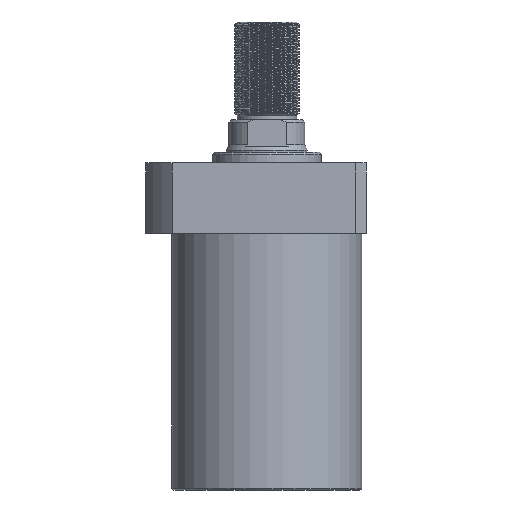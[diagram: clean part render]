
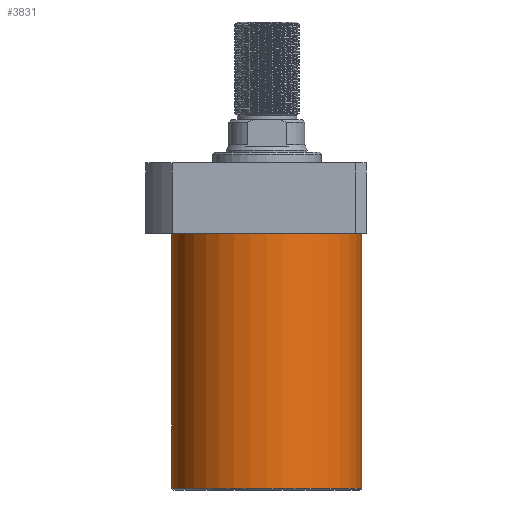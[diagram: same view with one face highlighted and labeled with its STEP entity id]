
A CAD part, front view. The second image highlights one B-rep face of the part: STEP entity #3831.
In plain terms, the highlighted cylindrical face has radius 52.5 mm (diameter 105 mm), a partial arc.
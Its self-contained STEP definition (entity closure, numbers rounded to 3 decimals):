
#246 = DIRECTION ( 'NONE',  ( 0., 0., 1. ) ) ;
#272 = CIRCLE ( 'NONE', #4080, 52.5 ) ;
#391 = LINE ( 'NONE', #2282, #3628 ) ;
#430 = CYLINDRICAL_SURFACE ( 'NONE', #1316, 52.5 ) ;
#647 = FACE_OUTER_BOUND ( 'NONE', #3234, .T. ) ;
#731 = CARTESIAN_POINT ( 'NONE',  ( 0., 0., -19.5 ) ) ;
#969 = DIRECTION ( 'NONE',  ( 0., 0., 1. ) ) ;
#1316 = AXIS2_PLACEMENT_3D ( 'NONE', #4165, #969, #4807 ) ;
#1387 = DIRECTION ( 'NONE',  ( 1., 0., 0. ) ) ;
#1516 = CARTESIAN_POINT ( 'NONE',  ( -52.5, 0., -19.5 ) ) ;
#1585 = CARTESIAN_POINT ( 'NONE',  ( -52.5, 0., -160.5 ) ) ;
#2154 = CARTESIAN_POINT ( 'NONE',  ( -52.5, 0., -161.5 ) ) ;
#2282 = CARTESIAN_POINT ( 'NONE',  ( 52.5, 0., -161.5 ) ) ;
#2308 = ORIENTED_EDGE ( 'NONE', *, *, #2702, .F. ) ;
#2564 = CARTESIAN_POINT ( 'NONE',  ( 0., 0., -160.5 ) ) ;
#2604 = EDGE_CURVE ( 'NONE', #6154, #4962, #391, .T. ) ;
#2702 = EDGE_CURVE ( 'NONE', #4041, #4615, #6848, .T. ) ;
#2750 = ORIENTED_EDGE ( 'NONE', *, *, #6193, .T. ) ;
#3193 = ORIENTED_EDGE ( 'NONE', *, *, #2604, .T. ) ;
#3219 = DIRECTION ( 'NONE',  ( -1., 0., 0. ) ) ;
#3234 = EDGE_LOOP ( 'NONE', ( #2308, #2750, #3193, #8175 ) ) ;
#3588 = DIRECTION ( 'NONE',  ( 0., 0., 1. ) ) ;
#3628 = VECTOR ( 'NONE', #3588, 1000. ) ;
#3831 = ADVANCED_FACE ( 'NONE', ( #647 ), #430, .T. ) ;
#4041 = VERTEX_POINT ( 'NONE', #1585 ) ;
#4080 = AXIS2_PLACEMENT_3D ( 'NONE', #731, #5254, #1387 ) ;
#4165 = CARTESIAN_POINT ( 'NONE',  ( 0., 0., -161.5 ) ) ;
#4531 = AXIS2_PLACEMENT_3D ( 'NONE', #2564, #7073, #3219 ) ;
#4615 = VERTEX_POINT ( 'NONE', #1516 ) ;
#4807 = DIRECTION ( 'NONE',  ( 1., 0., 0. ) ) ;
#4962 = VERTEX_POINT ( 'NONE', #7875 ) ;
#5254 = DIRECTION ( 'NONE',  ( 0., 0., -1. ) ) ;
#5385 = EDGE_CURVE ( 'NONE', #4962, #4615, #272, .T. ) ;
#5831 = CIRCLE ( 'NONE', #4531, 52.5 ) ;
#6154 = VERTEX_POINT ( 'NONE', #7711 ) ;
#6193 = EDGE_CURVE ( 'NONE', #4041, #6154, #5831, .T. ) ;
#6652 = VECTOR ( 'NONE', #246, 1000. ) ;
#6848 = LINE ( 'NONE', #2154, #6652 ) ;
#7073 = DIRECTION ( 'NONE',  ( 0., 0., 1. ) ) ;
#7711 = CARTESIAN_POINT ( 'NONE',  ( 52.5, 0., -160.5 ) ) ;
#7875 = CARTESIAN_POINT ( 'NONE',  ( 52.5, 0., -19.5 ) ) ;
#8175 = ORIENTED_EDGE ( 'NONE', *, *, #5385, .T. ) ;
